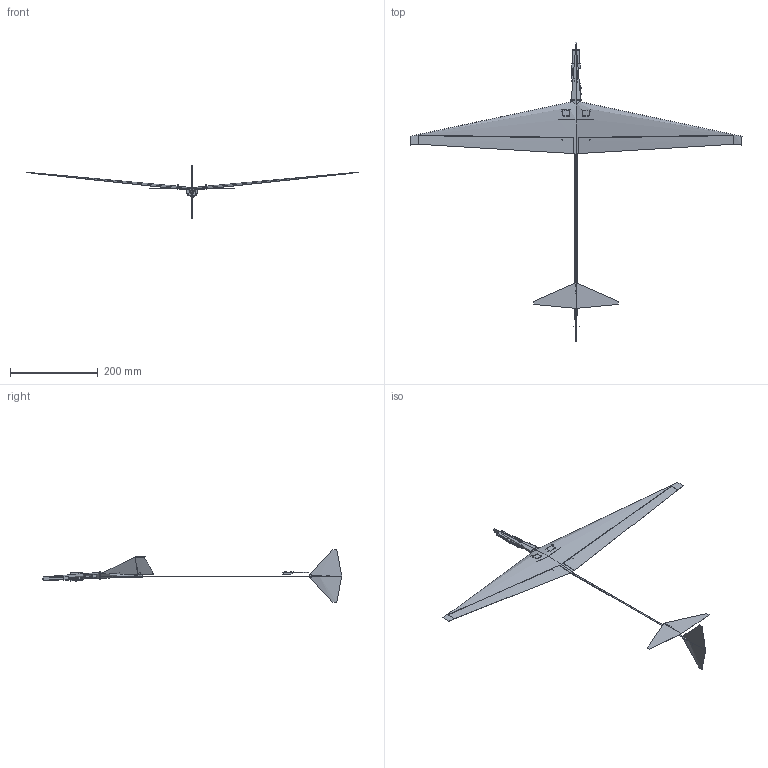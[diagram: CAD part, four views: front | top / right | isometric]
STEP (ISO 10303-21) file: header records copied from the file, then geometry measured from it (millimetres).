
FILE_DESCRIPTION(/* description */ (''),/* implementation_level */ '2;1');
FILE_NAME(/* name */ 'AIRES ULTRA PRO - 20220429 STEP',/* time_stamp */ '2022-06-03T13:39:55-07:00',/* author */ (''),/* organization */ (''),/* preprocessor_version */ 'ST-DEVELOPER v10',/* originating_system */ '',/* authorisation */ '');
FILE_SCHEMA (('CONFIG_CONTROL_DESIGN'));
Products named in the file (2): 1; 2
Assembly tree (1 placements, depth 2):
  1
    2
Bounding box: 755.27 x 681.31 x 120 mm (x, y, z)
Volume: 242839.2 mm3; surface area: 230828 mm2
Topology: 17 solids, 19 shells, 590 faces, 1516 edges, 1006 vertices
Faces by surface type: plane 327, bspline 263
Entity records: 578487 total; most frequent: CARTESIAN_POINT 568643, ORIENTED_EDGE 2878, EDGE_CURVE 1442, B_SPLINE_CURVE_WITH_KNOTS 1235, VERTEX_POINT 934, EDGE_LOOP 674, ADVANCED_FACE 590, FACE_OUTER_BOUND 590
